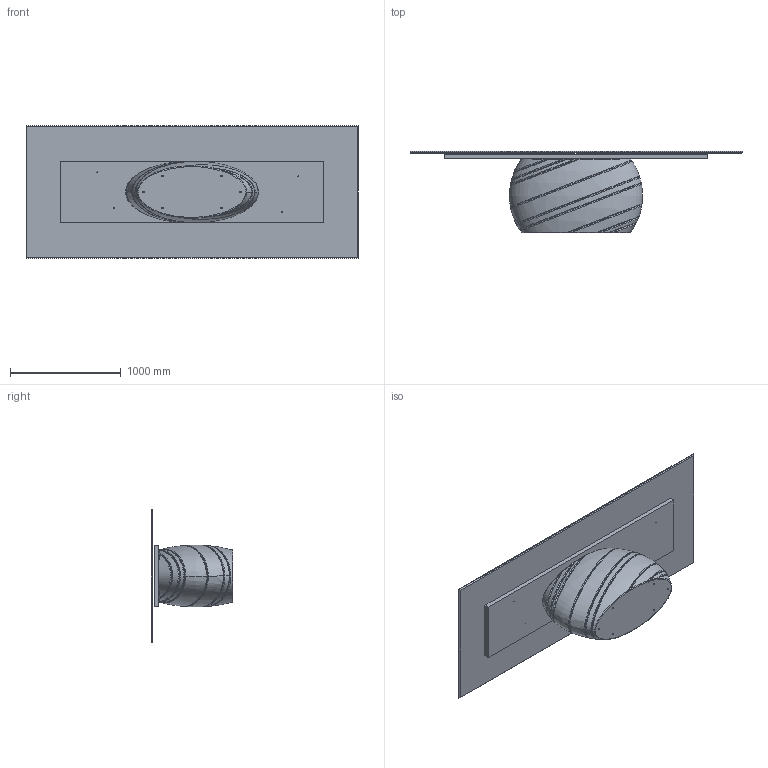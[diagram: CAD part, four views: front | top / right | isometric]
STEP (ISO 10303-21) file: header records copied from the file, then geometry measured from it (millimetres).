
FILE_DESCRIPTION (( 'STEP AP203' ), '1' );
FILE_NAME ('GI24C.STEP', '2025-04-22T14:15:25', ( '' ), ( '' ), 'SwSTEP 2.0', 'SolidWorks 2022', '' );
FILE_SCHEMA (( 'CONFIG_CONTROL_DESIGN' ));
Length unit declared in the file: millimetre
Products named in the file (3): GI24C; GIB000xxx-00-BASE GIOVE X 300; PIANI_modello 3D x web_Ceramica 300x120
Assembly tree (2 placements, depth 2):
  GI24C
    PIANI_modello 3D x web_Ceramica 300x120
    GIB000xxx-00-BASE GIOVE X 300
Bounding box: 3000 x 738 x 1200 mm (x, y, z)
Volume: 427139029 mm3; surface area: 12959431.3 mm2
Topology: 3 solids, 3 shells, 152 faces, 365 edges, 234 vertices
Faces by surface type: bspline 53, plane 39, cylinder 36, cone 24
Entity records: 37042 total; most frequent: CARTESIAN_POINT 33579, ORIENTED_EDGE 730, DIRECTION 528, EDGE_CURVE 365, VERTEX_POINT 234, AXIS2_PLACEMENT_3D 212, EDGE_LOOP 179, B_SPLINE_CURVE_WITH_KNOTS 153
